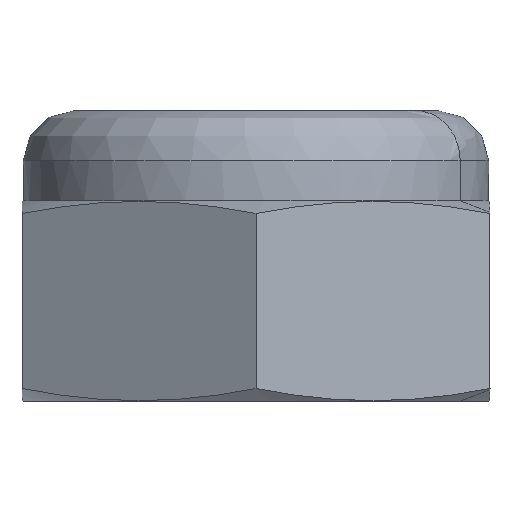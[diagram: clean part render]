
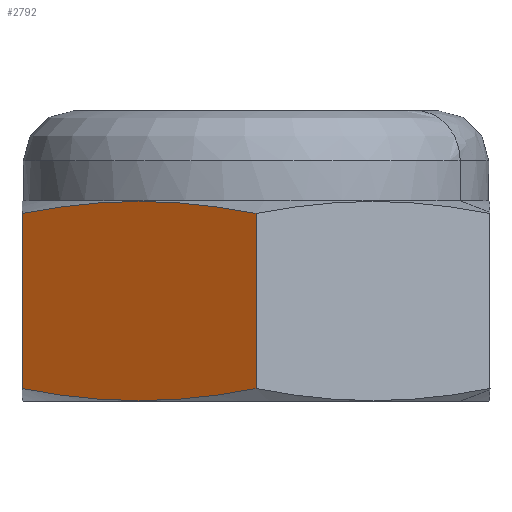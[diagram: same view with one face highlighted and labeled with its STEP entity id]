
A CAD part, left-side view. The second image highlights one B-rep face of the part: STEP entity #2792.
In plain terms, the highlighted planar face has unit normal (-0.866, 0.5, 0).
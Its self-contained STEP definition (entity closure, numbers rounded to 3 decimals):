
#218 = CARTESIAN_POINT ( 'NONE',  ( -10.8, -59., -65.5 ) ) ;
#236 = VERTEX_POINT ( 'NONE', #343 ) ;
#237 = VERTEX_POINT ( 'NONE', #218 ) ;
#253 = VERTEX_POINT ( 'NONE', #638 ) ;
#343 = CARTESIAN_POINT ( 'NONE',  ( -5.4, -49.647, -65.5 ) ) ;
#420 = VERTEX_POINT ( 'NONE', #451 ) ;
#451 = CARTESIAN_POINT ( 'NONE',  ( -10.8, -59., -72.5 ) ) ;
#638 = CARTESIAN_POINT ( 'NONE',  ( -5.4, -49.647, -72.5 ) ) ;
#730 = DIRECTION ( 'NONE',  ( 0., 0., 1. ) ) ;
#731 = DIRECTION ( 'NONE',  ( -0.866, 0.5, 0. ) ) ;
#733 = PLANE ( 'NONE',  #2809 ) ;
#909 = CARTESIAN_POINT ( 'NONE',  ( -10.8, -59., -72.985 ) ) ;
#1200 = B_SPLINE_CURVE_WITH_KNOTS ( 'NONE', 3,
 ( #1270, #1284, #1285, #1286, #1287, #1288, #1289, #1290, #1291, #1292 ),
 .UNSPECIFIED., .F., .F.,
 ( 4, 2, 2, 2, 4 ),
 ( -0.009, -0.007, -0.004, -0.001, 0.002 ),
 .UNSPECIFIED. ) ;
#1205 = B_SPLINE_CURVE_WITH_KNOTS ( 'NONE', 3,
 ( #1782, #1807, #1808, #1809, #1810, #1811, #1812, #1813, #1814, #1815 ),
 .UNSPECIFIED., .F., .F.,
 ( 4, 2, 2, 2, 4 ),
 ( -0.008, -0.005, -0.003, 0., 0.003 ),
 .UNSPECIFIED. ) ;
#1270 = CARTESIAN_POINT ( 'NONE',  ( -5.4, -49.647, -65.5 ) ) ;
#1284 = CARTESIAN_POINT ( 'NONE',  ( -5.846, -50.42, -65.351 ) ) ;
#1285 = CARTESIAN_POINT ( 'NONE',  ( -6.295, -51.197, -65.229 ) ) ;
#1286 = CARTESIAN_POINT ( 'NONE',  ( -7.196, -52.757, -65.062 ) ) ;
#1287 = CARTESIAN_POINT ( 'NONE',  ( -7.648, -53.54, -65.018 ) ) ;
#1288 = CARTESIAN_POINT ( 'NONE',  ( -8.553, -55.107, -65.018 ) ) ;
#1289 = CARTESIAN_POINT ( 'NONE',  ( -9.004, -55.89, -65.062 ) ) ;
#1290 = CARTESIAN_POINT ( 'NONE',  ( -9.905, -57.45, -65.229 ) ) ;
#1291 = CARTESIAN_POINT ( 'NONE',  ( -10.354, -58.227, -65.351 ) ) ;
#1292 = CARTESIAN_POINT ( 'NONE',  ( -10.8, -59., -65.5 ) ) ;
#1782 = CARTESIAN_POINT ( 'NONE',  ( -5.4, -49.647, -72.5 ) ) ;
#1803 = CARTESIAN_POINT ( 'NONE',  ( -5.4, -49.647, -72.985 ) ) ;
#1804 = DIRECTION ( 'NONE',  ( 0., 0., -1. ) ) ;
#1807 = CARTESIAN_POINT ( 'NONE',  ( -5.846, -50.42, -72.649 ) ) ;
#1808 = CARTESIAN_POINT ( 'NONE',  ( -6.295, -51.197, -72.771 ) ) ;
#1809 = CARTESIAN_POINT ( 'NONE',  ( -7.196, -52.757, -72.938 ) ) ;
#1810 = CARTESIAN_POINT ( 'NONE',  ( -7.648, -53.54, -72.982 ) ) ;
#1811 = CARTESIAN_POINT ( 'NONE',  ( -8.553, -55.107, -72.982 ) ) ;
#1812 = CARTESIAN_POINT ( 'NONE',  ( -9.004, -55.89, -72.938 ) ) ;
#1813 = CARTESIAN_POINT ( 'NONE',  ( -9.905, -57.45, -72.771 ) ) ;
#1814 = CARTESIAN_POINT ( 'NONE',  ( -10.354, -58.227, -72.649 ) ) ;
#1815 = CARTESIAN_POINT ( 'NONE',  ( -10.8, -59., -72.5 ) ) ;
#1817 = CARTESIAN_POINT ( 'NONE',  ( -10.8, -59., -72.985 ) ) ;
#1818 = DIRECTION ( 'NONE',  ( 0., 0., -1. ) ) ;
#1965 = LINE ( 'NONE', #1803, #1971 ) ;
#1968 = VECTOR ( 'NONE', #1818, 1000. ) ;
#1971 = VECTOR ( 'NONE', #1804, 1000. ) ;
#1976 = LINE ( 'NONE', #1817, #1968 ) ;
#2007 = FACE_OUTER_BOUND ( 'NONE', #2159, .T. ) ;
#2077 = ORIENTED_EDGE ( 'NONE', *, *, #2812, .F. ) ;
#2078 = ORIENTED_EDGE ( 'NONE', *, *, #2871, .T. ) ;
#2080 = ORIENTED_EDGE ( 'NONE', *, *, #2873, .T. ) ;
#2081 = ORIENTED_EDGE ( 'NONE', *, *, #2874, .F. ) ;
#2159 = EDGE_LOOP ( 'NONE', ( #2077, #2078, #2080, #2081 ) ) ;
#2792 = ADVANCED_FACE ( 'NONE', ( #2007 ), #733, .T. ) ;
#2809 = AXIS2_PLACEMENT_3D ( 'NONE', #909, #731, #730 ) ;
#2812 = EDGE_CURVE ( 'NONE', #236, #237, #1200, .T. ) ;
#2871 = EDGE_CURVE ( 'NONE', #236, #253, #1965, .T. ) ;
#2873 = EDGE_CURVE ( 'NONE', #253, #420, #1205, .T. ) ;
#2874 = EDGE_CURVE ( 'NONE', #237, #420, #1976, .T. ) ;
